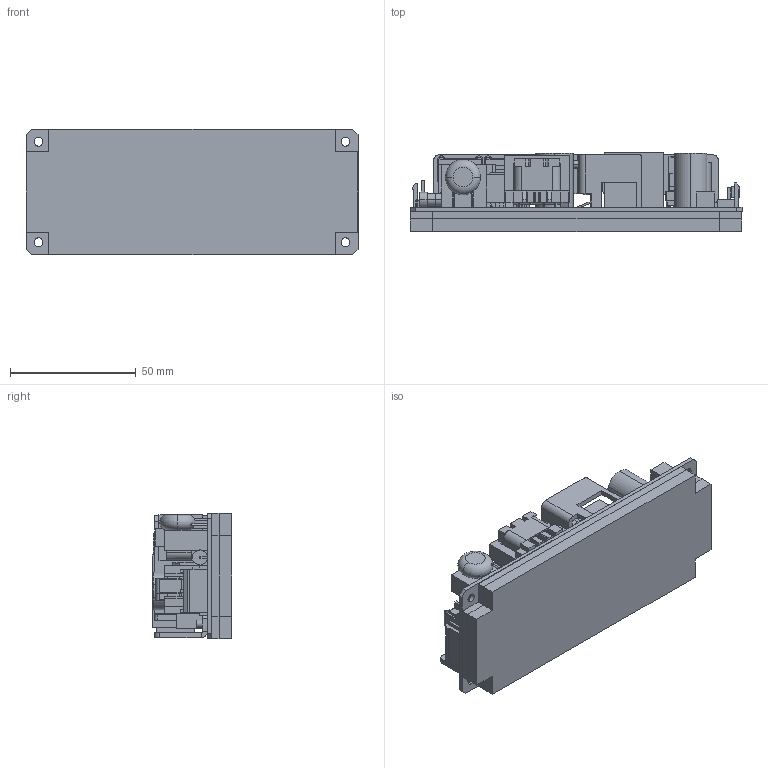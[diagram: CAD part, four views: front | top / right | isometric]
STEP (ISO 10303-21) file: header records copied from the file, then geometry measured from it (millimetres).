
FILE_DESCRIPTION (( 'STEP AP214' ), '1' );
FILE_NAME ('zws50baf_outline.STEP', '2011-04-22T05:11:37', ( 'N08-D050' ), ( 'TDK-Lambda' ), 'SwSTEP 2.0', 'SolidWorks 2010', '' );
FILE_SCHEMA (( 'AUTOMOTIVE_DESIGN' ));
Length unit declared in the file: millimetre
Products named in the file (1): zws50baf_outline
Bounding box: 132 x 31.5 x 50 mm (x, y, z)
Volume: 111012.6 mm3; surface area: 56901.4 mm2
Topology: 2 solids, 2 shells, 1345 faces, 3628 edges, 2325 vertices
Faces by surface type: plane 990, cylinder 282, cone 51, torus 18, sphere 4
Entity records: 56758 total; most frequent: CARTESIAN_POINT 7630, ORIENTED_EDGE 7244, DIRECTION 6984, EDGE_CURVE 3622, VECTOR 2782, LINE 2782, VERTEX_POINT 2325, AXIS2_PLACEMENT_3D 2101
